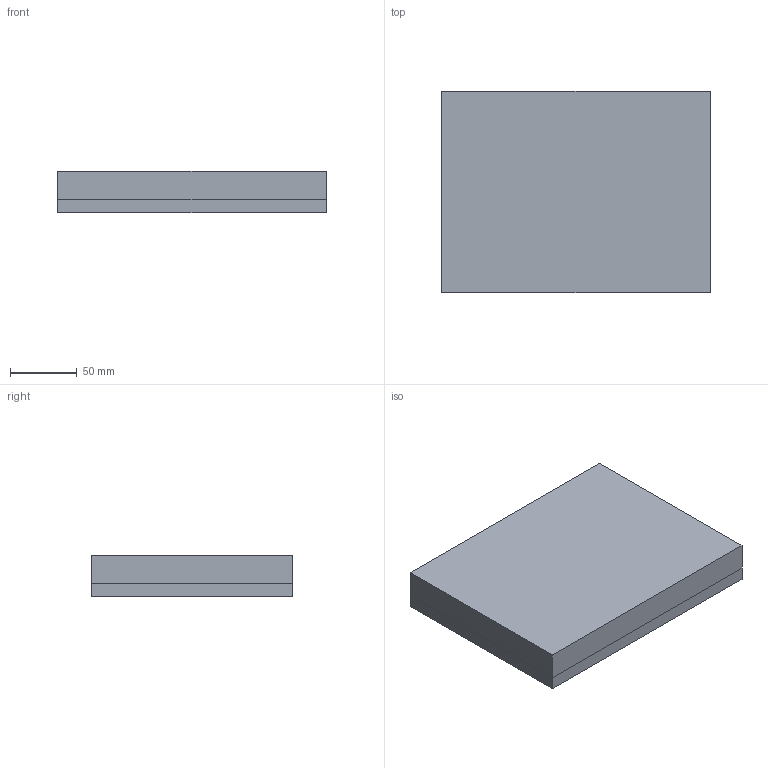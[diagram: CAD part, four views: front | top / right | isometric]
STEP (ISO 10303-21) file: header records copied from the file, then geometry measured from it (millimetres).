
FILE_DESCRIPTION(('CATIA V5 STEP Exchange'),'2;1');
FILE_NAME('C:\_Andres\UNIVERSIDAD\IQS\ASIGNATURAS\DAO\Controles\1920\c2\c2-Arcusa_Gil_de_Oliveira_Victor.stp','2020-02-10T15:37:37+00:00',('none'),('none'),'CATIA Version 5 Release 19 SP 3 (IN-10)','CATIA V5 STEP AP203','none');
FILE_SCHEMA(('CONFIG_CONTROL_DESIGN'));
Length unit declared in the file: millimetre
Products named in the file (1): c2-Arcusa_Gil_de_Oliveira_Victor
Bounding box: 201 x 151 x 31 mm (x, y, z)
Surface area: 201487.5 mm2
Topology: 3 solids, 3 shells, 103 faces, 232 edges, 128 vertices
Faces by surface type: cylinder 40, plane 27, bspline 24, sphere 12
Entity records: 3348 total; most frequent: CARTESIAN_POINT 1636, ORIENTED_EDGE 440, DIRECTION 224, EDGE_CURVE 164, EDGE_LOOP 110, ADVANCED_FACE 103, FACE_OUTER_BOUND 103, AXIS2_PLACEMENT_3D 96
